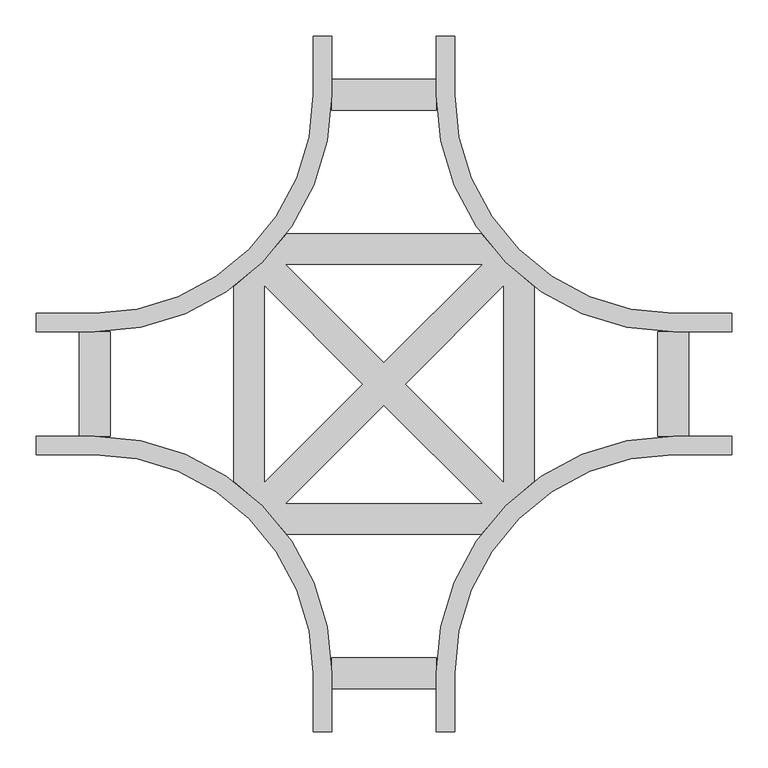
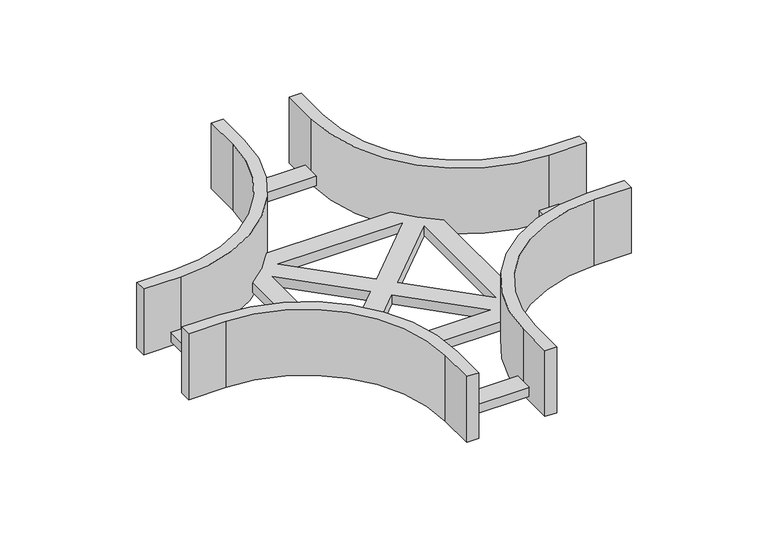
"""IFC4 building model written with IfcOpenShell, lengths in millimetres: cable carrier fitting geometry, Legrand_CableLadder_Swifts_Emerald_Cross-300R-13 : Hot Dip Galvanised (after manufacture)."""

import ifcopenshell
import ifcopenshell.guid

model = None  # the IFC model being written
_history = None  # IfcOwnerHistory: only IFC2X3 demands one
_inside = {}  # id of a spatial element -> (the spatial element, [elements in it])
_under = {}  # id of a project, library or spatial element -> (it, [spatial elements below it])
_declared = {}  # id of a project -> (the project, [libraries it declares])
_typed = {}  # id of a type object -> (the type object, [elements of that type])
_made_of = {}  # id of a material, layer set ... -> (it, [elements and type objects made of it])


def new_model(schema):
    """Start an empty IFC model of exactly this schema.

    Asked for "IFC4X3", IfcOpenShell would pick the latest addendum, in which some entities
    have other attributes; the version numbers below select the first issue.
    IFC2X3 requires an IfcOwnerHistory on every rooted entity: one is made here for all.
    """
    global model, _history
    if schema == "IFC4X3":
        model = ifcopenshell.file(schema_version=(4, 3, 0, 0))
    else:
        model = ifcopenshell.file(schema=schema)
    _inside.clear()
    _under.clear()
    _declared.clear()
    _typed.clear()
    _made_of.clear()
    _history = None
    if model.schema == "IFC2X3":
        org = make("IfcOrganization", Name="unknown")
        user = make(
            "IfcPersonAndOrganization",
            ThePerson=make("IfcPerson", FamilyName="unknown"),
            TheOrganization=org,
        )
        app = make(
            "IfcApplication",
            ApplicationDeveloper=org,
            Version="unknown",
            ApplicationFullName="unknown",
            ApplicationIdentifier="unknown",
        )
        _history = make(
            "IfcOwnerHistory",
            OwningUser=user,
            OwningApplication=app,
            ChangeAction="ADDED",
            CreationDate=0,
        )
    return model


def make(cls, **values):
    """One entity of the class cls with the attributes given. An attribute that is None is left unset."""
    return model.create_entity(
        cls, **{name: value for name, value in values.items() if value is not None}
    )


def rooted(cls, **values):
    """An entity with a GlobalId (a new one), such as an element, a storey or a relation."""
    return make(cls, GlobalId=ifcopenshell.guid.new(), OwnerHistory=_history, **values)


def si_unit(unit_type, name, prefix=None):
    """IfcSIUnit, for example si_unit("LENGTHUNIT", "METRE", prefix="MILLI")."""
    return make("IfcSIUnit", UnitType=unit_type, Prefix=prefix, Name=name)


def assignment(units):
    """IfcUnitAssignment: the units of a project."""
    return None if units is None else make("IfcUnitAssignment", Units=units)


def point(xyz):
    """IfcCartesianPoint."""
    return None if xyz is None else make("IfcCartesianPoint", Coordinates=xyz)


def direction(xyz):
    """IfcDirection."""
    return None if xyz is None else make("IfcDirection", DirectionRatios=xyz)


def frame(location, z_axis=None, x_axis=None):
    """IfcAxis2Placement3D, a coordinate frame: its origin and axes. An axis left out is left unset."""
    return make(
        "IfcAxis2Placement3D",
        Location=point(location),
        Axis=direction(z_axis),
        RefDirection=direction(x_axis),
    )


def frame_2d(location, x_axis=None):
    """IfcAxis2Placement2D, a coordinate frame in the plane: its origin and x axis."""
    return make(
        "IfcAxis2Placement2D", Location=point(location), RefDirection=direction(x_axis)
    )


def origin():
    """The frame at (0, 0, 0) with its axes left unset."""
    return frame((0.0, 0.0, 0.0))


def place(relative_to, where):
    """IfcLocalPlacement: puts the frame where relative to a parent placement (None: the world)."""
    return make(
        "IfcLocalPlacement", PlacementRelTo=relative_to, RelativePlacement=where
    )


def context(
    kind, dimensions, precision=None, world=None, true_north=None, identifier=None
):
    """IfcGeometricRepresentationContext, for example the 3D "Model" context."""
    return make(
        "IfcGeometricRepresentationContext",
        ContextIdentifier=identifier,
        ContextType=kind,
        CoordinateSpaceDimension=dimensions,
        Precision=precision,
        WorldCoordinateSystem=world,
        TrueNorth=true_north,
    )


def project(units=None, contexts=None):
    """IfcProject with its units and contexts."""
    return rooted(
        "IfcProject",
        Name="project",
        RepresentationContexts=contexts,
        UnitsInContext=assignment(units),
    )


def spatial(cls, under=None, at=None, **own):
    """A site, building, storey or space (cls), placed at a placement, below another one or the project."""
    s = rooted(cls, ObjectPlacement=at, **own)
    if under is not None:
        _under.setdefault(under.id(), (under, []))[1].append(s)
    return s


def polyline(points):
    """IfcPolyline through the points."""
    return make("IfcPolyline", Points=[point(p) for p in points])


def circle_curve(where, radius):
    """IfcCircle in the frame where."""
    return make("IfcCircle", Position=where, Radius=radius)


def trimmed(basis, trim1, trim2, sense, master):
    """IfcTrimmedCurve: the piece of a basis curve between two trims."""
    return make(
        "IfcTrimmedCurve",
        BasisCurve=basis,
        Trim1=trim1,
        Trim2=trim2,
        SenseAgreement=sense,
        MasterRepresentation=master,
    )


def segment(curve, same_sense, transition):
    """IfcCompositeCurveSegment."""
    return make(
        "IfcCompositeCurveSegment",
        Transition=transition,
        SameSense=same_sense,
        ParentCurve=curve,
    )


def composite_curve(segments, self_intersect=None):
    """IfcCompositeCurve: segments joined end to end."""
    return make("IfcCompositeCurve", Segments=segments, SelfIntersect=self_intersect)


def outline(outer, holes=None, kind="AREA"):
    """IfcArbitraryClosedProfileDef: a profile drawn as a closed curve; with holes, ...WithVoids."""
    if holes is None:
        return make("IfcArbitraryClosedProfileDef", ProfileType=kind, OuterCurve=outer)
    return make(
        "IfcArbitraryProfileDefWithVoids",
        ProfileType=kind,
        OuterCurve=outer,
        InnerCurves=holes,
    )


def extrude(swept, where, along, depth):
    """IfcExtrudedAreaSolid: the profile swept, set in the frame where, extruded along a direction by depth."""
    return make(
        "IfcExtrudedAreaSolid",
        SweptArea=swept,
        Position=where,
        ExtrudedDirection=direction(along),
        Depth=depth,
    )


def shape(context_of_items, identifier, shape_type, items):
    """IfcShapeRepresentation: the items that make up one representation, for example the "Body"."""
    return make(
        "IfcShapeRepresentation",
        ContextOfItems=context_of_items,
        RepresentationIdentifier=identifier,
        RepresentationType=shape_type,
        Items=items,
    )


def source(mapping_origin, context_of_items, identifier, shape_type, items):
    """IfcRepresentationMap: a shape defined once, which mapped items show again and again."""
    return make(
        "IfcRepresentationMap",
        MappingOrigin=mapping_origin,
        MappedRepresentation=shape(context_of_items, identifier, shape_type, items),
    )


def transform(
    local_origin,
    x_axis=None,
    y_axis=None,
    z_axis=None,
    scale=None,
    scale2=None,
    scale3=None,
    uniform=True,
):
    """IfcCartesianTransformationOperator3D, or its non-uniform kind. x_axis, y_axis, z_axis: its Axis1, 2, 3."""
    if uniform:
        return make(
            "IfcCartesianTransformationOperator3D",
            Axis1=direction(x_axis),
            Axis2=direction(y_axis),
            LocalOrigin=point(local_origin),
            Scale=scale,
            Axis3=direction(z_axis),
        )
    return make(
        "IfcCartesianTransformationOperator3DnonUniform",
        Axis1=direction(x_axis),
        Axis2=direction(y_axis),
        LocalOrigin=point(local_origin),
        Scale=scale,
        Axis3=direction(z_axis),
        Scale2=scale2,
        Scale3=scale3,
    )


def mapped(mapping_source, mapping_target):
    """IfcMappedItem: shows the shape of a source again, moved by a transform."""
    return make(
        "IfcMappedItem", MappingSource=mapping_source, MappingTarget=mapping_target
    )


def made_of(thing, what):
    """Note that an element or type object is made of a material, layer set ...; save() writes the relation."""
    if what is not None:
        _made_of.setdefault(what.id(), (what, []))[1].append(thing)
    return thing


def element(
    cls,
    number,
    at=None,
    inside=None,
    cuts=None,
    type_object=None,
    material=None,
    context=None,
    identifier="Body",
    shape_type=None,
    held_by="IfcProductDefinitionShape",
    body=None,
    shapes=None,
    **own,
):
    """One element of the class cls, such as IfcWall. Its Tag is "e" and its number.

    at: its placement. inside: the storey or other place that contains it. cuts: it is an
    opening in that element (IfcRelVoidsElement). A single representation is given by context,
    identifier, shape_type and body (its items); several are given by shapes. held_by: the class
    of the entity that holds the representations. save() writes the other relations.
    """
    e = rooted(cls, Tag="e%d" % number, ObjectPlacement=at, **own)
    if body is not None:
        shapes = [shape(context, identifier, shape_type, body)]
    if shapes is not None:
        e.Representation = make(held_by, Representations=shapes)
    if inside is not None:
        _inside.setdefault(inside.id(), (inside, []))[1].append(e)
    if cuts is not None:
        rooted(
            "IfcRelVoidsElement", RelatingBuildingElement=cuts, RelatedOpeningElement=e
        )
    if type_object is not None:
        _typed.setdefault(type_object.id(), (type_object, []))[1].append(e)
    return made_of(e, material)


def aggregate(whole, parts):
    """IfcRelAggregates: a whole, such as a stair, and the parts it consists of."""
    return rooted("IfcRelAggregates", RelatingObject=whole, RelatedObjects=parts)


def save(model, path):
    """Write the relations noted so far, then the file.

    IfcRelAggregates (storeys below a building ...), IfcRelContainedInSpatialStructure (elements
    in a storey), IfcRelDefinesByType, IfcRelAssociatesMaterial and IfcRelDeclares: one each for
    every whole, place, type object, material and project.
    """
    for whole, parts in _under.values():
        aggregate(whole, parts)
    for where, things in _inside.values():
        rooted(
            "IfcRelContainedInSpatialStructure",
            RelatedElements=things,
            RelatingStructure=where,
        )
    for kind, things in _typed.values():
        rooted("IfcRelDefinesByType", RelatedObjects=things, RelatingType=kind)
    for what, things in _made_of.values():
        rooted("IfcRelAssociatesMaterial", RelatedObjects=things, RelatingMaterial=what)
    for by, libraries in _declared.values():
        rooted("IfcRelDeclares", RelatingContext=by, RelatedDefinitions=libraries)
    model.write(path)


def cable_carrier_fitting_687db9e6(model_context):
    return source(origin(), model_context, "Body", "SweptSolid", [
        extrude(outline(composite_curve([segment(trimmed(circle_curve(frame_2d((-397.0, 397.0)), 325.5), [point((-205.9, 133.502296))], [point((-133.502296, 205.9))], True, "CARTESIAN"), True, "CONTINUOUS"), segment(polyline([(-133.502296, 205.9), (133.502296, 205.9)]), True, "CONTINUOUS"), segment(trimmed(circle_curve(frame_2d((397.0, 397.0)), 325.5), [point((133.502296, 205.9))], [point((205.9, 133.502296))], True, "CARTESIAN"), True, "CONTINUOUS"), segment(polyline([(205.9, 133.502296), (205.9, -133.502296)]), True, "CONTINUOUS"), segment(trimmed(circle_curve(frame_2d((397.0, -397.0)), 325.5), [point((205.9, -133.502296))], [point((133.502296, -205.9))], True, "CARTESIAN"), True, "CONTINUOUS"), segment(polyline([(133.502296, -205.9), (-133.502296, -205.9)]), True, "CONTINUOUS"), segment(trimmed(circle_curve(frame_2d((-397.0, -397.0)), 325.5), [point((-133.502296, -205.9))], [point((-205.9, -133.502296))], True, "CARTESIAN"), True, "CONTINUOUS"), segment(polyline([(-205.9, -133.502296), (-205.9, 133.502296)]), True, "CONTINUOUS")], self_intersect=False), holes=[polyline([(-29.6984848, 0.0), (-163.9, 134.2015152), (-163.9, -134.2015152), (-29.6984848, 0.0)]), polyline([(0.0, -29.6984848), (-134.2015152, -163.9), (134.2015152, -163.9), (0.0, -29.6984848)]), polyline([(29.6984848, 0.0), (163.9, -134.2015152), (163.9, 134.2015152), (29.6984848, 0.0)]), polyline([(-134.2015152, 163.9), (0.0, 29.6984848), (134.2015152, 163.9), (-134.2015152, 163.9)])]), frame((0.0, 0.0, -65.0), z_axis=(0.0, 0.0, 1.0), x_axis=(1.0, 0.0, 0.0)), (0.0, 0.0, 1.0), 21.0),
        extrude(outline(polyline([(-71.5, 376.0), (-71.5, 418.0), (71.5, 418.0), (71.5, 376.0), (-71.5, 376.0)])), frame((0.0, 0.0, -65.0), z_axis=(0.0, 0.0, 1.0), x_axis=(1.0, 0.0, 0.0)), (0.0, 0.0, 1.0), 21.0),
        extrude(outline(polyline([(71.5, -376.0), (71.5, -418.0), (-71.5, -418.0), (-71.5, -376.0), (71.5, -376.0)])), frame((0.0, 0.0, -65.0), z_axis=(0.0, 0.0, 1.0), x_axis=(1.0, 0.0, 0.0)), (0.0, 0.0, 1.0), 21.0),
        extrude(outline(polyline([(-376.0, 71.5), (-376.0, -71.5), (-418.0, -71.5), (-418.0, 71.5), (-376.0, 71.5)])), frame((0.0, 0.0, -65.0), z_axis=(0.0, 0.0, 1.0), x_axis=(1.0, 0.0, 0.0)), (0.0, 0.0, 1.0), 21.0),
        extrude(outline(polyline([(418.0, 71.5), (418.0, -71.5), (376.0, -71.5), (376.0, 71.5), (418.0, 71.5)])), frame((0.0, 0.0, -65.0), z_axis=(0.0, 0.0, 1.0), x_axis=(1.0, 0.0, 0.0)), (0.0, 0.0, 1.0), 21.0),
        extrude(outline(composite_curve([segment(polyline([(477.0, -71.5), (477.0, -97.0), (397.0, -97.0)]), True, "CONTINUOUS"), segment(trimmed(circle_curve(frame_2d((397.0, -397.0)), 300.0), [point((397.0, -97.0))], [point((97.0, -397.0))], True, "CARTESIAN"), True, "CONTINUOUS"), segment(polyline([(97.0, -397.0), (97.0, -477.0), (71.5, -477.0), (71.5, -397.0)]), True, "CONTINUOUS"), segment(trimmed(circle_curve(frame_2d((397.0, -397.0)), 325.5), [point((71.5, -397.0))], [point((397.0, -71.5))], False, "CARTESIAN"), True, "CONTINUOUS"), segment(polyline([(397.0, -71.5), (477.0, -71.5)]), True, "CONTINUOUS")], self_intersect=False)), frame((0.0, 0.0, -75.0), z_axis=(0.0, 0.0, 1.0), x_axis=(1.0, 0.0, 0.0)), (0.0, 0.0, 1.0), 150.0),
        extrude(outline(composite_curve([segment(polyline([(-477.0, -97.0), (-477.0, -71.5), (-397.0, -71.5)]), True, "CONTINUOUS"), segment(trimmed(circle_curve(frame_2d((-397.0, -397.0)), 325.5), [point((-397.0, -71.5))], [point((-71.5, -397.0))], False, "CARTESIAN"), True, "CONTINUOUS"), segment(polyline([(-71.5, -397.0), (-71.5, -477.0), (-97.0, -477.0), (-97.0, -397.0)]), True, "CONTINUOUS"), segment(trimmed(circle_curve(frame_2d((-397.0, -397.0)), 300.0), [point((-97.0, -397.0))], [point((-397.0, -97.0))], True, "CARTESIAN"), True, "CONTINUOUS"), segment(polyline([(-397.0, -97.0), (-477.0, -97.0)]), True, "CONTINUOUS")], self_intersect=False)), frame((0.0, 0.0, -75.0), z_axis=(0.0, 0.0, 1.0), x_axis=(1.0, 0.0, 0.0)), (0.0, 0.0, 1.0), 150.0),
        extrude(outline(composite_curve([segment(polyline([(-477.0, 71.5), (-477.0, 97.0), (-397.0, 97.0)]), True, "CONTINUOUS"), segment(trimmed(circle_curve(frame_2d((-397.0, 397.0)), 300.0), [point((-397.0, 97.0))], [point((-97.0, 397.0))], True, "CARTESIAN"), True, "CONTINUOUS"), segment(polyline([(-97.0, 397.0), (-97.0, 477.0), (-71.5, 477.0), (-71.5, 397.0)]), True, "CONTINUOUS"), segment(trimmed(circle_curve(frame_2d((-397.0, 397.0)), 325.5), [point((-71.5, 397.0))], [point((-397.0, 71.5))], False, "CARTESIAN"), True, "CONTINUOUS"), segment(polyline([(-397.0, 71.5), (-477.0, 71.5)]), True, "CONTINUOUS")], self_intersect=False)), frame((0.0, 0.0, -75.0), z_axis=(0.0, 0.0, 1.0), x_axis=(1.0, 0.0, 0.0)), (0.0, 0.0, 1.0), 150.0),
        extrude(outline(composite_curve([segment(polyline([(477.0, 97.0), (477.0, 71.5), (397.0, 71.5)]), True, "CONTINUOUS"), segment(trimmed(circle_curve(frame_2d((397.0, 397.0)), 325.5), [point((397.0, 71.5))], [point((71.5, 397.0))], False, "CARTESIAN"), True, "CONTINUOUS"), segment(polyline([(71.5, 397.0), (71.5, 477.0), (97.0, 477.0), (97.0, 397.0)]), True, "CONTINUOUS"), segment(trimmed(circle_curve(frame_2d((397.0, 397.0)), 300.0), [point((97.0, 397.0))], [point((397.0, 97.0))], True, "CARTESIAN"), True, "CONTINUOUS"), segment(polyline([(397.0, 97.0), (477.0, 97.0)]), True, "CONTINUOUS")], self_intersect=False)), frame((0.0, 0.0, -75.0), z_axis=(0.0, 0.0, 1.0), x_axis=(1.0, 0.0, 0.0)), (0.0, 0.0, 1.0), 150.0),
    ])


if __name__ == "__main__":
    model = new_model("IFC4")
    model_context = context("Model", 3, world=origin())
    ifc_project = project(units=[si_unit("LENGTHUNIT", "METRE", prefix="MILLI")], contexts=[model_context])
    site = spatial("IfcSite", under=ifc_project)
    building = spatial("IfcBuilding", under=site)
    placement = place(None, origin())
    cable_carrier_fitting_shape = cable_carrier_fitting_687db9e6(model_context)
    element("IfcCableCarrierFitting", 1, ObjectType="Legrand_CableLadder_Swifts_Emerald_Cross-300R-13 : Hot Dip Galvanised (after manufacture)", at=placement, inside=building, context=model_context, shape_type="MappedRepresentation", body=[
        mapped(cable_carrier_fitting_shape, transform((0.0, 0.0, 0.0), x_axis=(1.0, 0.0, 0.0), y_axis=(0.0, 1.0, 0.0), z_axis=(0.0, 0.0, 1.0))),
    ])
    save(model, "model.ifc")
